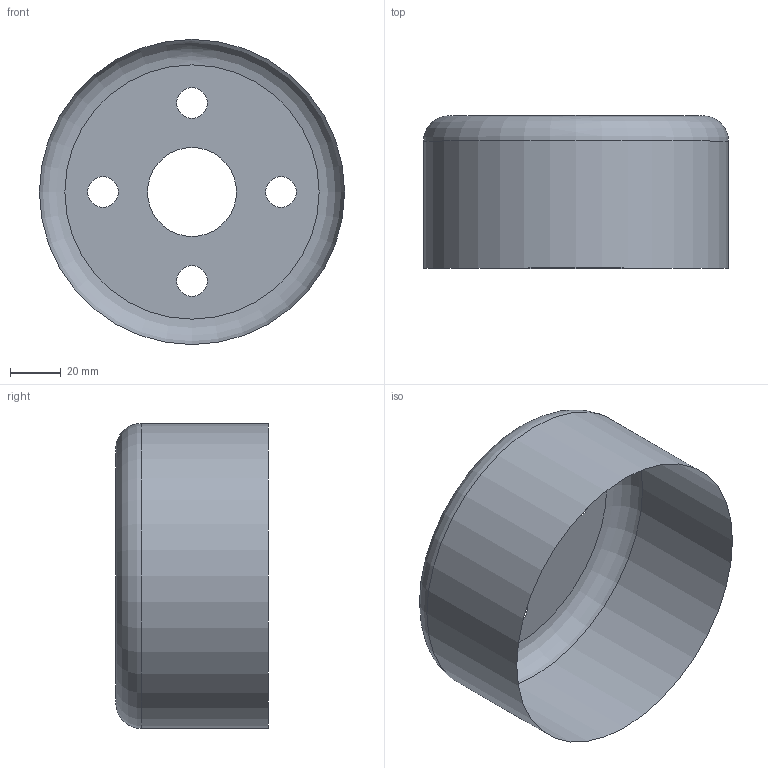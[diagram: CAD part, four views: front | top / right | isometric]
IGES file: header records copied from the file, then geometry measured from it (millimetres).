
Start section: DesignModeler IGES Output Version 5.3
Global section: file name: NoName; native system:  By UGS Corp.; preprocessor: XPlus GENERIC/IGES 3.0; author: cadcim; organization:  ; date: 20120301.121738; units: metre
Bounding box: 120 x 60 x 120 mm (x, y, z)
Surface area: 30852.1 mm2 (no closed solid volume)
Topology: 0 solids, 0 shells, 3 faces, 19 edges, 15 vertices
Faces by surface type: revolution 2, extrusion 1
